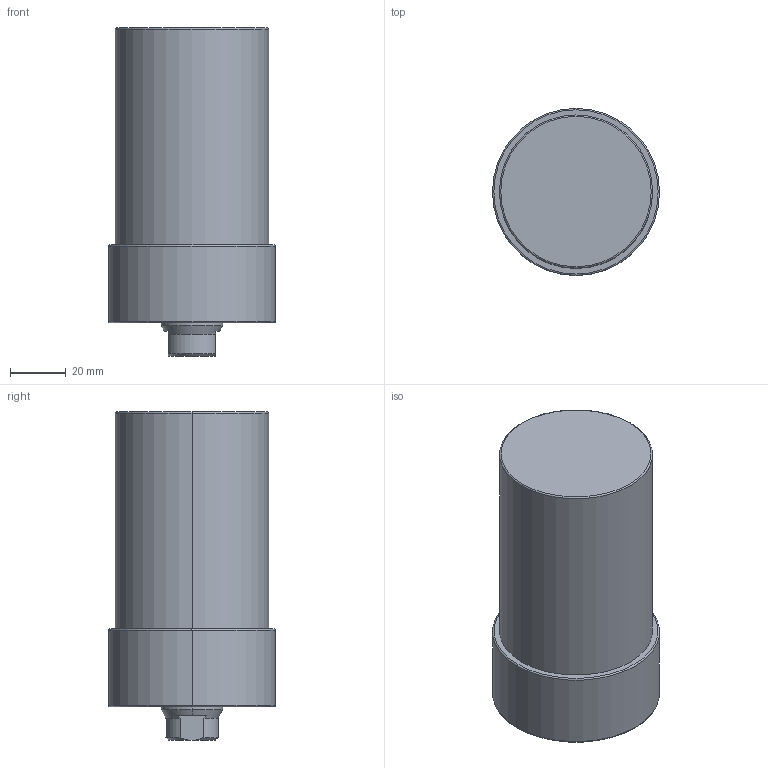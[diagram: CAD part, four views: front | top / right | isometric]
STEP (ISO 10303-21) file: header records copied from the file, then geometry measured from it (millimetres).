
FILE_DESCRIPTION (( 'STEP AP203' ), '1' );
FILE_NAME ('CLLU055-CA-065.STEP', '2017-05-12T11:11:55', ( '' ), ( '' ), 'SwSTEP 2.0', 'SolidWorks 2015', '' );
FILE_SCHEMA (( 'CONFIG_CONTROL_DESIGN' ));
Length unit declared in the file: millimetre
Products named in the file (1): CLLU055-CA-065
Bounding box: 60 x 60 x 118 mm (x, y, z)
Volume: 264815.7 mm3; surface area: 26800.1 mm2
Topology: 1 solids, 1 shells, 62 faces, 138 edges, 77 vertices
Faces by surface type: cone 24, cylinder 22, plane 10, torus 6
Entity records: 1745 total; most frequent: DIRECTION 318, CARTESIAN_POINT 308, ORIENTED_EDGE 256, AXIS2_PLACEMENT_3D 135, EDGE_CURVE 128, VERTEX_POINT 77, CIRCLE 72, EDGE_LOOP 71
